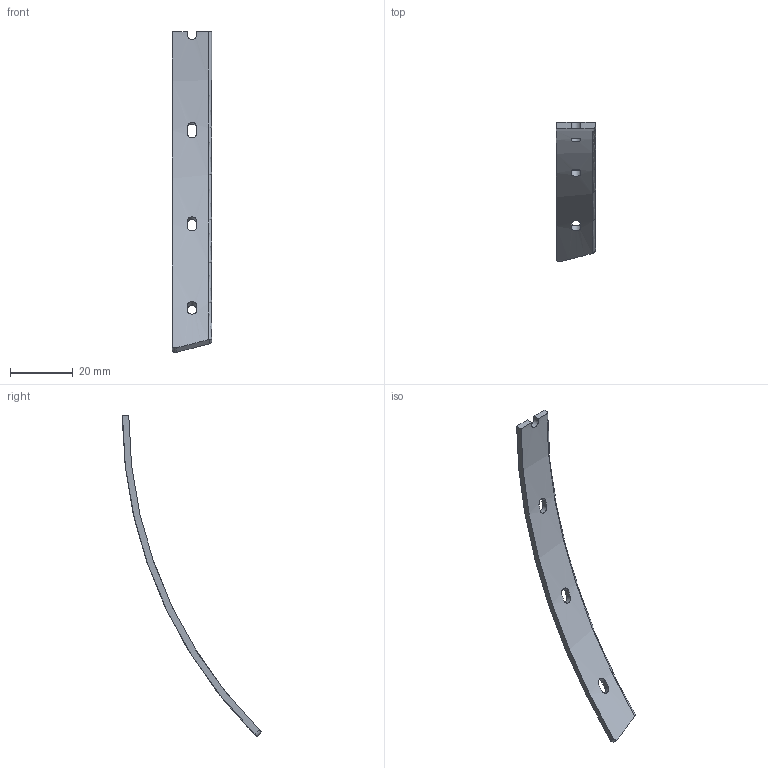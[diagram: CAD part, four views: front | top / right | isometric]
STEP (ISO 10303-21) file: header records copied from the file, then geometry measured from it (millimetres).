
FILE_DESCRIPTION(/* description */ (''),/* implementation_level */ '2;1');
FILE_NAME(/* name */ 'baskilama.step',/* time_stamp */ '2023-10-29T00:33:54+03:00',/* author */ (''),/* organization */ (''),/* preprocessor_version */ 'ST-DEVELOPER v20',/* originating_system */ 'Autodesk Translation Framework v12.14.0.127',/* authorisation */ '');
FILE_SCHEMA (('AUTOMOTIVE_DESIGN { 1 0 10303 214 3 1 1 }'));
Length unit declared in the file: millimetre
Products named in the file (1): FusionComponent
Bounding box: 12.5 x 44.16 x 101.86 mm (x, y, z)
Volume: 2654.2 mm3; surface area: 3211.5 mm2
Topology: 1 solids, 1 shells, 25 faces, 70 edges, 47 vertices
Faces by surface type: plane 13, cylinder 11, torus 1
Entity records: 1120 total; most frequent: CARTESIAN_POINT 435, ORIENTED_EDGE 140, DIRECTION 126, EDGE_CURVE 70, AXIS2_PLACEMENT_3D 50, VERTEX_POINT 47, EDGE_LOOP 31, LINE 26
